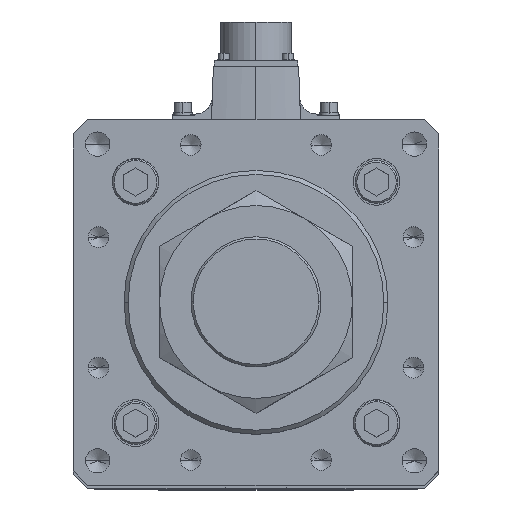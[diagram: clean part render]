
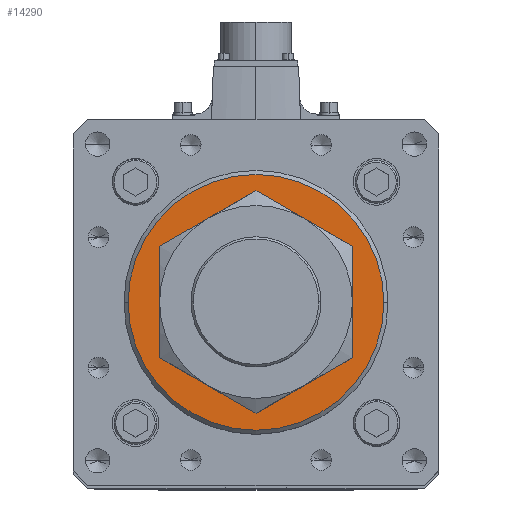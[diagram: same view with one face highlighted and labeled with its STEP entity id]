
A CAD part, top view. The second image highlights one B-rep face of the part: STEP entity #14290.
In plain terms, the highlighted planar face has unit normal (0, 0, 1).
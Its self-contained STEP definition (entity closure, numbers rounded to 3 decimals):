
#1587 = CARTESIAN_POINT ( 'NONE',  ( 0., 0., 962. ) ) ;
#1697 = DIRECTION ( 'NONE',  ( 0., 0., -1. ) ) ;
#2409 = FACE_OUTER_BOUND ( 'NONE', #14506, .T. ) ;
#3411 = DIRECTION ( 'NONE',  ( 0., 0., 1. ) ) ;
#5066 = DIRECTION ( 'NONE',  ( 1., 0., 0. ) ) ;
#5717 = DIRECTION ( 'NONE',  ( 1., 0., 0. ) ) ;
#12268 = VERTEX_POINT ( 'NONE', #19793 ) ;
#13668 = AXIS2_PLACEMENT_3D ( 'NONE', #18388, #26792, #5717 ) ;
#14137 = PLANE ( 'NONE',  #43151 ) ;
#14290 = ADVANCED_FACE ( 'NONE', ( #37740, #2409 ), #14137, .T. ) ;
#14344 = EDGE_LOOP ( 'NONE', ( #43899, #40412 ) ) ;
#14506 = EDGE_LOOP ( 'NONE', ( #48299, #21089 ) ) ;
#15194 = VERTEX_POINT ( 'NONE', #46704 ) ;
#16481 = CARTESIAN_POINT ( 'NONE',  ( 0., 0., 962. ) ) ;
#17047 = CARTESIAN_POINT ( 'NONE',  ( 0., 0., 962. ) ) ;
#18388 = CARTESIAN_POINT ( 'NONE',  ( 0., 0., 962. ) ) ;
#19793 = CARTESIAN_POINT ( 'NONE',  ( 40.5, 0., 962. ) ) ;
#20992 = EDGE_CURVE ( 'NONE', #38626, #15194, #22028, .T. ) ;
#21089 = ORIENTED_EDGE ( 'NONE', *, *, #35561, .T. ) ;
#22028 = CIRCLE ( 'NONE', #29841, 63. ) ;
#25870 = AXIS2_PLACEMENT_3D ( 'NONE', #17047, #26357, #5066 ) ;
#26357 = DIRECTION ( 'NONE',  ( 0., 0., -1. ) ) ;
#26792 = DIRECTION ( 'NONE',  ( 0., 0., 1. ) ) ;
#27429 = DIRECTION ( 'NONE',  ( 1., 0., 0. ) ) ;
#28016 = CIRCLE ( 'NONE', #29406, 40.5 ) ;
#28257 = CIRCLE ( 'NONE', #25870, 40.5 ) ;
#29406 = AXIS2_PLACEMENT_3D ( 'NONE', #30944, #1697, #27429 ) ;
#29841 = AXIS2_PLACEMENT_3D ( 'NONE', #16481, #3411, #46109 ) ;
#30944 = CARTESIAN_POINT ( 'NONE',  ( 0., 0., 962. ) ) ;
#35561 = EDGE_CURVE ( 'NONE', #15194, #38626, #40489, .T. ) ;
#37740 = FACE_BOUND ( 'NONE', #14344, .T. ) ;
#38044 = EDGE_CURVE ( 'NONE', #12268, #50526, #28257, .T. ) ;
#38626 = VERTEX_POINT ( 'NONE', #42713 ) ;
#40412 = ORIENTED_EDGE ( 'NONE', *, *, #45848, .T. ) ;
#40489 = CIRCLE ( 'NONE', #13668, 63. ) ;
#42713 = CARTESIAN_POINT ( 'NONE',  ( -63., 0., 962. ) ) ;
#43151 = AXIS2_PLACEMENT_3D ( 'NONE', #1587, #48956, #44265 ) ;
#43899 = ORIENTED_EDGE ( 'NONE', *, *, #38044, .T. ) ;
#44265 = DIRECTION ( 'NONE',  ( 1., 0., 0. ) ) ;
#45848 = EDGE_CURVE ( 'NONE', #50526, #12268, #28016, .T. ) ;
#46109 = DIRECTION ( 'NONE',  ( 1., 0., 0. ) ) ;
#46704 = CARTESIAN_POINT ( 'NONE',  ( 63., 0., 962. ) ) ;
#48299 = ORIENTED_EDGE ( 'NONE', *, *, #20992, .T. ) ;
#48956 = DIRECTION ( 'NONE',  ( 0., 0., 1. ) ) ;
#49985 = CARTESIAN_POINT ( 'NONE',  ( -40.5, 0., 962. ) ) ;
#50526 = VERTEX_POINT ( 'NONE', #49985 ) ;
